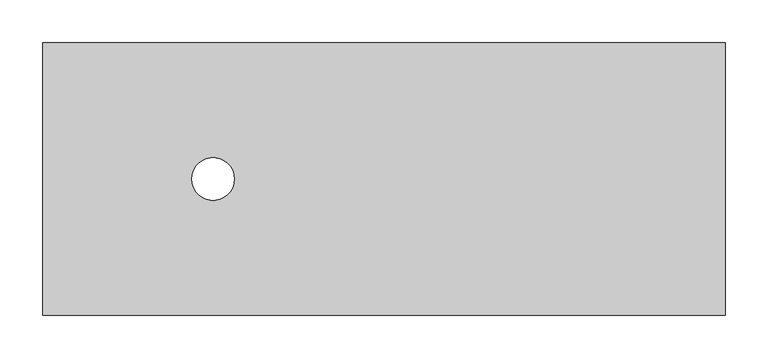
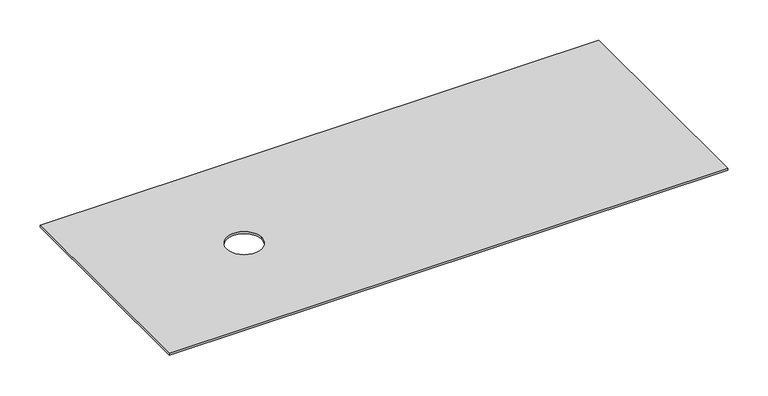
"""IFC4 building model written with IfcOpenShell, lengths in millimetres: proxy geometry, Electrical_Installation_Hager_Cover-GBZ-BKA : Electrical_Installation_Hager_Cover-GBZ-BKA."""

from ifc_helpers import new_model, si_unit, point, frame, frame_2d, origin, place, context, project, spatial, polyline, circle_curve, trimmed, segment, composite_curve, outline, extrude, source, transform, mapped, element, save


def electrical_fixtures_fd652104(model_context):
    return source(origin(), model_context, "Body", "SweptSolid", [
        extrude(outline(polyline([(800.0, 159.75), (800.0, -159.75), (0.0, -159.75), (0.0, 159.75), (800.0, 159.75)]), holes=[composite_curve([segment(trimmed(circle_curve(frame_2d((199.7148726, 0.0)), 25.0), [point((174.7148726, 0.0))], [point((224.7148726, 0.0))], True, "CARTESIAN"), True, "CONTINUOUS"), segment(trimmed(circle_curve(frame_2d((199.7148726, 0.0)), 25.0), [point((224.7148726, 0.0))], [point((174.7148726, 0.0))], True, "CARTESIAN"), True, "CONTINUOUS")], self_intersect=False)]), frame((0.0, 0.0, 10.0), z_axis=(0.0, 0.0, 1.0), x_axis=(1.0, 0.0, 0.0)), (0.0, 0.0, 1.0), 3.0),
    ])


if __name__ == "__main__":
    model = new_model("IFC4")
    model_context = context("Model", 3, world=origin())
    ifc_project = project(units=[si_unit("LENGTHUNIT", "METRE", prefix="MILLI")], contexts=[model_context])
    site = spatial("IfcSite", under=ifc_project)
    building = spatial("IfcBuilding", under=site)
    placement = place(None, origin())
    electrical_fixtures_shape = electrical_fixtures_fd652104(model_context)
    element("IfcBuildingElementProxy", 1, Name="Electrical_Installation_Hager_Cover-GBZ-BKA : Electrical_Installation_Hager_Cover-GBZ-BKA", ObjectType="Electrical_Installation_Hager_Cover-GBZ-BKA : Electrical_Installation_Hager_Cover-GBZ-BKA", at=placement, inside=building, context=model_context, shape_type="MappedRepresentation", body=[
        mapped(electrical_fixtures_shape, transform((0.0, 0.0, 0.0), x_axis=(1.0, 0.0, 0.0), y_axis=(0.0, 1.0, 0.0), z_axis=(0.0, 0.0, 1.0))),
    ])
    save(model, "model.ifc")
